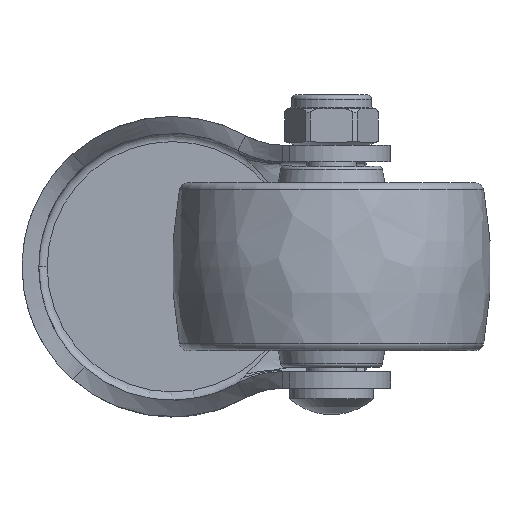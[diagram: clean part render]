
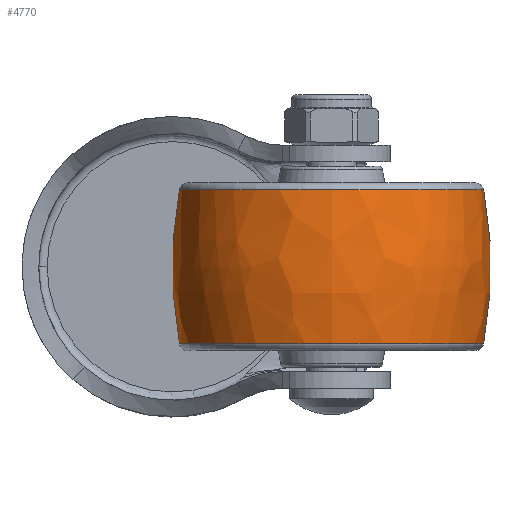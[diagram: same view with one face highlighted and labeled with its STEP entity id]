
A CAD part, front view. The second image highlights one B-rep face of the part: STEP entity #4770.
In plain terms, the highlighted free-form (B-spline) face has degree [3, 3] with [7, 4] control points.
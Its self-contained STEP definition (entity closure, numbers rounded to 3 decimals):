
#4386=CARTESIAN_POINT('',(0.,-31.,0.));
#4387=DIRECTION('',(0.,0.,1.));
#4388=DIRECTION('',(0.184,0.983,0.));
#4389=AXIS2_PLACEMENT_3D('',#4386,#4387,#4388);
#4391=CARTESIAN_POINT('',(0.,31.,0.));
#4392=DIRECTION('',(0.,0.,-1.));
#4393=DIRECTION('',(0.184,-0.983,0.));
#4394=AXIS2_PLACEMENT_3D('',#4391,#4392,#4393);
#4396=CARTESIAN_POINT('',(9.184,0.,0.));
#4397=DIRECTION('',(-1.,0.,0.));
#4398=DIRECTION('',(0.,1.,0.));
#4399=AXIS2_PLACEMENT_3D('',#4396,#4397,#4398);
#4421=CARTESIAN_POINT('',(-9.184,0.,0.));
#4422=DIRECTION('',(-1.,0.,0.));
#4423=DIRECTION('',(0.,1.,0.));
#4424=AXIS2_PLACEMENT_3D('',#4421,#4422,#4423);
#4543=CARTESIAN_POINT('',(9.184,18.149,0.));
#4545=VERTEX_POINT('',#4543);
#4546=CARTESIAN_POINT('',(-9.184,18.149,0.));
#4547=VERTEX_POINT('',#4546);
#4551=CARTESIAN_POINT('',(9.184,-18.149,0.));
#4553=VERTEX_POINT('',#4551);
#4554=CARTESIAN_POINT('',(-9.184,-18.149,0.));
#4555=VERTEX_POINT('',#4554);
#4732=CARTESIAN_POINT('',(-9.547,-18.044,
1.135));
#4733=CARTESIAN_POINT('',(-3.222,-19.272,
1.213));
#4734=CARTESIAN_POINT('',(3.222,-19.272,1.213));
#4735=CARTESIAN_POINT('',(9.547,-18.044,1.135));
#4736=CARTESIAN_POINT('',(-9.547,-18.743,
-9.969));
#4737=CARTESIAN_POINT('',(-3.222,-20.018,
-10.648));
#4738=CARTESIAN_POINT('',(3.222,-20.018,
-10.648));
#4739=CARTESIAN_POINT('',(9.547,-18.743,
-9.969));
#4740=CARTESIAN_POINT('',(-9.547,-11.127,
-18.08));
#4741=CARTESIAN_POINT('',(-3.222,-11.884,
-19.31));
#4742=CARTESIAN_POINT('',(3.222,-11.884,
-19.31));
#4743=CARTESIAN_POINT('',(9.547,-11.127,
-18.08));
#4744=CARTESIAN_POINT('',(-9.547,0.,-18.08));
#4745=CARTESIAN_POINT('',(-3.222,0.,-19.31));
#4746=CARTESIAN_POINT('',(3.222,0.,-19.31));
#4747=CARTESIAN_POINT('',(9.547,0.,-18.08));
#4748=CARTESIAN_POINT('',(-9.547,11.127,
-18.08));
#4749=CARTESIAN_POINT('',(-3.222,11.884,
-19.31));
#4750=CARTESIAN_POINT('',(3.222,11.884,-19.31));
#4751=CARTESIAN_POINT('',(9.547,11.127,-18.08));
#4752=CARTESIAN_POINT('',(-9.547,18.743,
-9.969));
#4753=CARTESIAN_POINT('',(-3.222,20.018,
-10.648));
#4754=CARTESIAN_POINT('',(3.222,20.018,-10.648));
#4755=CARTESIAN_POINT('',(9.547,18.743,-9.969));
#4756=CARTESIAN_POINT('',(-9.547,18.044,1.135));
#4757=CARTESIAN_POINT('',(-3.222,19.272,1.213));
#4758=CARTESIAN_POINT('',(3.222,19.272,1.213));
#4759=CARTESIAN_POINT('',(9.547,18.044,1.135));
#4760=(BOUNDED_SURFACE()B_SPLINE_SURFACE(3,3,((#4732,#4733,#4734,#4735),(#4736,
#4737,#4738,#4739),(#4740,#4741,#4742,#4743),(#4744,#4745,#4746,#4747),(#4748,
#4749,#4750,#4751),(#4752,#4753,#4754,#4755),(#4756,#4757,#4758,#4759)),
.UNSPECIFIED.,.F.,.F.,.F.)B_SPLINE_SURFACE_WITH_KNOTS((4,3,4),(4,4),(0.,1.,
2.),(0.,1.),.UNSPECIFIED.)GEOMETRIC_REPRESENTATION_ITEM()RATIONAL_B_SPLINE_SURFACE(((1.198,1.184,1.184,1.198),(
0.946,0.935,0.935,0.946),(
0.946,0.935,0.935,0.946),(
1.198,1.184,1.184,1.198),(
0.946,0.935,0.935,0.946),(
0.946,0.935,0.935,0.946),(
1.198,1.184,1.184,1.198)))REPRESENTATION_ITEM('')SURFACE());
#4762=ORIENTED_EDGE('',*,*,#4761,.T.);
#4764=ORIENTED_EDGE('',*,*,#4763,.T.);
#4766=ORIENTED_EDGE('',*,*,#4765,.F.);
#4767=ORIENTED_EDGE('',*,*,#4725,.F.);
#4768=EDGE_LOOP('',(#4762,#4764,#4766,#4767));
#4769=FACE_OUTER_BOUND('',#4768,.F.);
#4390=CIRCLE('',#4389,50.);
#4395=CIRCLE('',#4394,50.);
#4400=CIRCLE('',#4399,18.149);
#4425=CIRCLE('',#4424,18.149);
#4725=EDGE_CURVE('',#4545,#4553,#4400,.T.);
#4761=EDGE_CURVE('',#4545,#4547,#4390,.T.);
#4763=EDGE_CURVE('',#4547,#4555,#4425,.T.);
#4765=EDGE_CURVE('',#4553,#4555,#4395,.T.);
#4770=ADVANCED_FACE('',(#4769),#4760,.T.);
